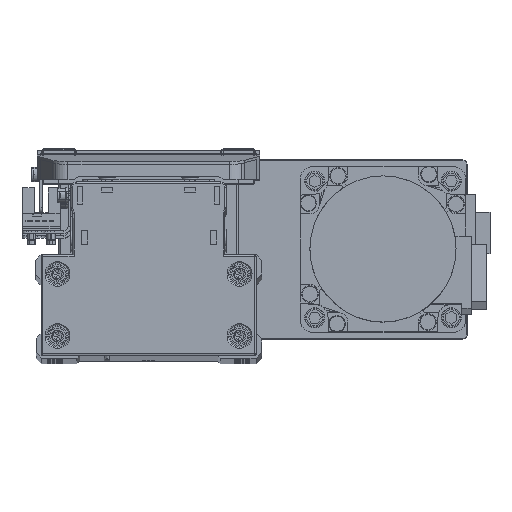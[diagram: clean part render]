
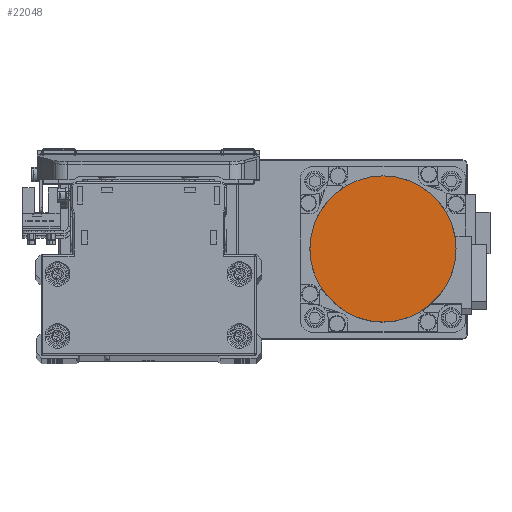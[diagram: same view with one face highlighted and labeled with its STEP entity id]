
A CAD part, top view. The second image highlights one B-rep face of the part: STEP entity #22048.
In plain terms, the highlighted planar face has unit normal (0, 0, 1) as drawn and (0, 0, -1) by its records, which use the part's own axes.
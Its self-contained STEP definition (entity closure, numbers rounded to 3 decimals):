
#1455 = CARTESIAN_POINT ( 'NONE',  ( 26.5, 0., -109.7 ) ) ;
#4209 = AXIS2_PLACEMENT_3D ( 'NONE', #20355, #33188, #4376 ) ;
#4376 = DIRECTION ( 'NONE',  ( 1., 0., 0. ) ) ;
#5249 = CARTESIAN_POINT ( 'NONE',  ( -26.5, 0., -109.7 ) ) ;
#7062 = CARTESIAN_POINT ( 'NONE',  ( 0., 0., -109.7 ) ) ;
#7657 = AXIS2_PLACEMENT_3D ( 'NONE', #7062, #19902, #32728 ) ;
#9247 = EDGE_LOOP ( 'NONE', ( #21871, #26860 ) ) ;
#11333 = DIRECTION ( 'NONE',  ( -1., 0., 0. ) ) ;
#13846 = EDGE_CURVE ( 'NONE', #15773, #14359, #14841, .T. ) ;
#14359 = VERTEX_POINT ( 'NONE', #1455 ) ;
#14841 = CIRCLE ( 'NONE', #38359, 26.5 ) ;
#15773 = VERTEX_POINT ( 'NONE', #5249 ) ;
#19902 = DIRECTION ( 'NONE',  ( 0., 0., 1. ) ) ;
#20355 = CARTESIAN_POINT ( 'NONE',  ( 0., 0., -109.7 ) ) ;
#21871 = ORIENTED_EDGE ( 'NONE', *, *, #13846, .F. ) ;
#22048 = ADVANCED_FACE ( 'NONE', ( #23038 ), #35866, .F. ) ;
#22346 = CIRCLE ( 'NONE', #4209, 26.5 ) ;
#23038 = FACE_OUTER_BOUND ( 'NONE', #9247, .T. ) ;
#26860 = ORIENTED_EDGE ( 'NONE', *, *, #36384, .F. ) ;
#27327 = CARTESIAN_POINT ( 'NONE',  ( 0., 0., -109.7 ) ) ;
#32728 = DIRECTION ( 'NONE',  ( 1., 0., 0. ) ) ;
#33188 = DIRECTION ( 'NONE',  ( 0., 0., 1. ) ) ;
#35866 = PLANE ( 'NONE',  #7657 ) ;
#36384 = EDGE_CURVE ( 'NONE', #14359, #15773, #22346, .T. ) ;
#38359 = AXIS2_PLACEMENT_3D ( 'NONE', #27327, #40152, #11333 ) ;
#40152 = DIRECTION ( 'NONE',  ( 0., 0., 1. ) ) ;
